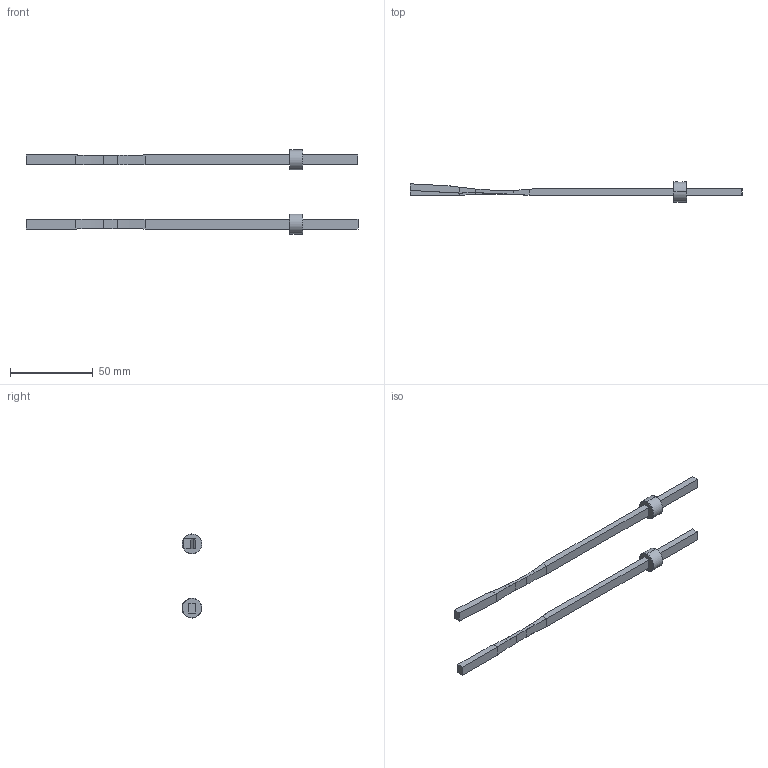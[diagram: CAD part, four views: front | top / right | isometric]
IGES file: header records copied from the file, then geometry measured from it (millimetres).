
Start section: START RECORD GO HERE.
Global section: file name: pf064200.igs; native system: DASSAULT SYSTEMES CATIA V5 R20 - www.3ds.com; preprocessor: CATIA Version 5 Release 20 ; author: Utente; organization: NB04-ASUS; date: 20201103.213818; units: millimetre
Bounding box: 200.01 x 12.02 x 50.63 mm (x, y, z)
Surface area: 9016.7 mm2 (no closed solid volume)
Topology: 0 solids, 0 shells, 74 faces, 364 edges, 360 vertices
Faces by surface type: plane 40, revolution 34
